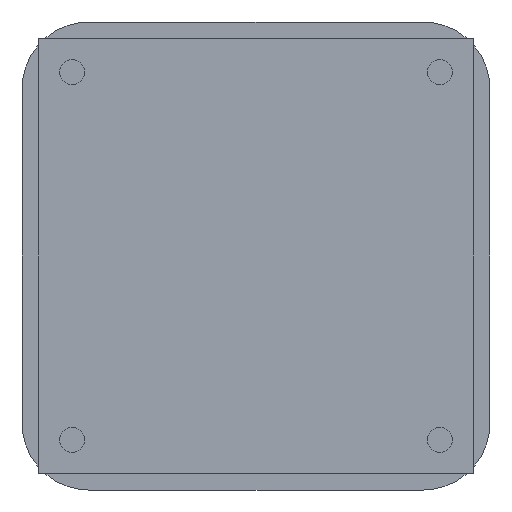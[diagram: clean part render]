
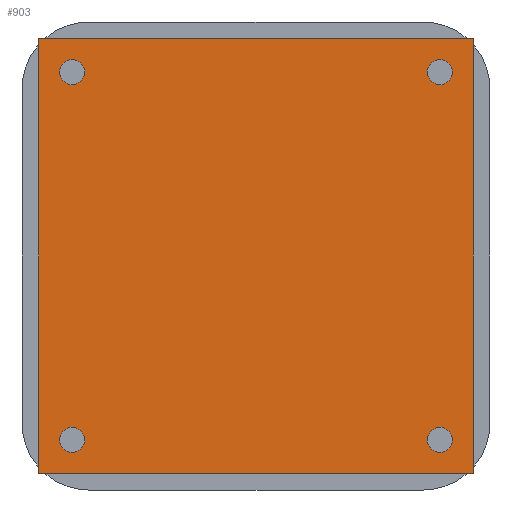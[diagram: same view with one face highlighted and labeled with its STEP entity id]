
A CAD part, front view. The second image highlights one B-rep face of the part: STEP entity #903.
In plain terms, the highlighted planar face has unit normal (0, -1, 0).
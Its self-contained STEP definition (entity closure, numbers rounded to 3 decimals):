
#127 = CIRCLE ( 'NONE', #7820, 1.5 ) ;
#291 = ORIENTED_EDGE ( 'NONE', *, *, #13187, .T. ) ;
#464 = VERTEX_POINT ( 'NONE', #14275 ) ;
#492 = CARTESIAN_POINT ( 'NONE',  ( -22., 0., 22. ) ) ;
#577 = EDGE_CURVE ( 'NONE', #1816, #8201, #12088, .T. ) ;
#850 = DIRECTION ( 'NONE',  ( 0., 1., 0. ) ) ;
#903 = ADVANCED_FACE ( 'NONE', ( #10055, #6867, #14233, #6470, #7069 ), #4294, .T. ) ;
#1151 = CIRCLE ( 'NONE', #3645, 1.5 ) ;
#1217 = DIRECTION ( 'NONE',  ( 0., 1., 0. ) ) ;
#1302 = CARTESIAN_POINT ( 'NONE',  ( 22., 0., -20.5 ) ) ;
#1510 = CARTESIAN_POINT ( 'NONE',  ( -26., 0., -26. ) ) ;
#1721 = ORIENTED_EDGE ( 'NONE', *, *, #13956, .T. ) ;
#1816 = VERTEX_POINT ( 'NONE', #9671 ) ;
#1841 = EDGE_LOOP ( 'NONE', ( #13561, #12926, #14253, #10465 ) ) ;
#1887 = DIRECTION ( 'NONE',  ( 0., 0., 1. ) ) ;
#2001 = CIRCLE ( 'NONE', #6228, 1.5 ) ;
#2280 = DIRECTION ( 'NONE',  ( 0., 1., 0. ) ) ;
#2454 = ORIENTED_EDGE ( 'NONE', *, *, #15687, .T. ) ;
#2500 = VERTEX_POINT ( 'NONE', #7095 ) ;
#2641 = CARTESIAN_POINT ( 'NONE',  ( -26., 0., 26. ) ) ;
#3068 = ORIENTED_EDGE ( 'NONE', *, *, #13795, .T. ) ;
#3186 = VERTEX_POINT ( 'NONE', #1510 ) ;
#3236 = EDGE_CURVE ( 'NONE', #2500, #14460, #9622, .T. ) ;
#3322 = CARTESIAN_POINT ( 'NONE',  ( 26., 0., 26. ) ) ;
#3491 = VERTEX_POINT ( 'NONE', #4795 ) ;
#3607 = CARTESIAN_POINT ( 'NONE',  ( 22., 0., -22. ) ) ;
#3645 = AXIS2_PLACEMENT_3D ( 'NONE', #3607, #2280, #5894 ) ;
#3761 = CARTESIAN_POINT ( 'NONE',  ( 22., 0., 22. ) ) ;
#3873 = DIRECTION ( 'NONE',  ( 0., 0., 1. ) ) ;
#3892 = CARTESIAN_POINT ( 'NONE',  ( -22., 0., 23.5 ) ) ;
#4028 = EDGE_CURVE ( 'NONE', #14460, #464, #12768, .T. ) ;
#4069 = ORIENTED_EDGE ( 'NONE', *, *, #5194, .T. ) ;
#4294 = PLANE ( 'NONE',  #6044 ) ;
#4456 = DIRECTION ( 'NONE',  ( 0., -1., 0. ) ) ;
#4564 = DIRECTION ( 'NONE',  ( 1., 0., 0. ) ) ;
#4795 = CARTESIAN_POINT ( 'NONE',  ( 22., 0., 20.5 ) ) ;
#5194 = EDGE_CURVE ( 'NONE', #9754, #14180, #9341, .T. ) ;
#5602 = CARTESIAN_POINT ( 'NONE',  ( -26., 0., 26. ) ) ;
#5689 = DIRECTION ( 'NONE',  ( 0., 1., 0. ) ) ;
#5894 = DIRECTION ( 'NONE',  ( 0., 0., 1. ) ) ;
#5988 = VECTOR ( 'NONE', #9056, 1000. ) ;
#6044 = AXIS2_PLACEMENT_3D ( 'NONE', #14631, #4456, #13201 ) ;
#6228 = AXIS2_PLACEMENT_3D ( 'NONE', #8472, #850, #14811 ) ;
#6470 = FACE_BOUND ( 'NONE', #13170, .T. ) ;
#6595 = CARTESIAN_POINT ( 'NONE',  ( -22., 0., -20.5 ) ) ;
#6867 = FACE_BOUND ( 'NONE', #9796, .T. ) ;
#6904 = DIRECTION ( 'NONE',  ( 0., 0., 1. ) ) ;
#7013 = EDGE_LOOP ( 'NONE', ( #2454, #4069 ) ) ;
#7069 = FACE_OUTER_BOUND ( 'NONE', #1841, .T. ) ;
#7095 = CARTESIAN_POINT ( 'NONE',  ( -26., 0., 26. ) ) ;
#7414 = CARTESIAN_POINT ( 'NONE',  ( 22., 0., -22. ) ) ;
#7455 = VECTOR ( 'NONE', #8147, 1000. ) ;
#7820 = AXIS2_PLACEMENT_3D ( 'NONE', #3761, #1217, #3873 ) ;
#7990 = EDGE_CURVE ( 'NONE', #3186, #2500, #10046, .T. ) ;
#8002 = CARTESIAN_POINT ( 'NONE',  ( -22., 0., -23.5 ) ) ;
#8147 = DIRECTION ( 'NONE',  ( 0., 0., 1. ) ) ;
#8201 = VERTEX_POINT ( 'NONE', #1302 ) ;
#8366 = DIRECTION ( 'NONE',  ( 0., 0., 1. ) ) ;
#8459 = AXIS2_PLACEMENT_3D ( 'NONE', #14372, #15652, #10439 ) ;
#8472 = CARTESIAN_POINT ( 'NONE',  ( -22., 0., 22. ) ) ;
#8589 = DIRECTION ( 'NONE',  ( 0., 0., 1. ) ) ;
#9056 = DIRECTION ( 'NONE',  ( -1., 0., 0. ) ) ;
#9147 = CIRCLE ( 'NONE', #10466, 1.5 ) ;
#9175 = VERTEX_POINT ( 'NONE', #6595 ) ;
#9341 = CIRCLE ( 'NONE', #12259, 1.5 ) ;
#9423 = VECTOR ( 'NONE', #4564, 1000. ) ;
#9622 = LINE ( 'NONE', #2641, #9423 ) ;
#9671 = CARTESIAN_POINT ( 'NONE',  ( 22., 0., -23.5 ) ) ;
#9754 = VERTEX_POINT ( 'NONE', #10931 ) ;
#9796 = EDGE_LOOP ( 'NONE', ( #16504, #13948 ) ) ;
#10046 = LINE ( 'NONE', #5602, #7455 ) ;
#10055 = FACE_BOUND ( 'NONE', #12732, .T. ) ;
#10439 = DIRECTION ( 'NONE',  ( 0., 0., 1. ) ) ;
#10465 = ORIENTED_EDGE ( 'NONE', *, *, #15141, .F. ) ;
#10466 = AXIS2_PLACEMENT_3D ( 'NONE', #14691, #5689, #6904 ) ;
#10685 = DIRECTION ( 'NONE',  ( 0., 1., 0. ) ) ;
#10931 = CARTESIAN_POINT ( 'NONE',  ( -22., 0., 20.5 ) ) ;
#11390 = EDGE_CURVE ( 'NONE', #3491, #13759, #9147, .T. ) ;
#11865 = CARTESIAN_POINT ( 'NONE',  ( -26., 0., -26. ) ) ;
#12088 = CIRCLE ( 'NONE', #14664, 1.5 ) ;
#12259 = AXIS2_PLACEMENT_3D ( 'NONE', #492, #10685, #1887 ) ;
#12559 = DIRECTION ( 'NONE',  ( 0., 0., -1. ) ) ;
#12584 = VECTOR ( 'NONE', #12559, 1000. ) ;
#12732 = EDGE_LOOP ( 'NONE', ( #291, #14711 ) ) ;
#12755 = CARTESIAN_POINT ( 'NONE',  ( 22., 0., 23.5 ) ) ;
#12768 = LINE ( 'NONE', #3322, #12584 ) ;
#12926 = ORIENTED_EDGE ( 'NONE', *, *, #3236, .F. ) ;
#13082 = CIRCLE ( 'NONE', #8459, 1.5 ) ;
#13170 = EDGE_LOOP ( 'NONE', ( #3068, #1721 ) ) ;
#13187 = EDGE_CURVE ( 'NONE', #8201, #1816, #1151, .T. ) ;
#13201 = DIRECTION ( 'NONE',  ( 0., 0., -1. ) ) ;
#13561 = ORIENTED_EDGE ( 'NONE', *, *, #4028, .F. ) ;
#13585 = CARTESIAN_POINT ( 'NONE',  ( 26., 0., 26. ) ) ;
#13759 = VERTEX_POINT ( 'NONE', #12755 ) ;
#13764 = DIRECTION ( 'NONE',  ( 0., 1., 0. ) ) ;
#13795 = EDGE_CURVE ( 'NONE', #9175, #15009, #13082, .T. ) ;
#13948 = ORIENTED_EDGE ( 'NONE', *, *, #11390, .T. ) ;
#13956 = EDGE_CURVE ( 'NONE', #15009, #9175, #14271, .T. ) ;
#14180 = VERTEX_POINT ( 'NONE', #3892 ) ;
#14233 = FACE_BOUND ( 'NONE', #7013, .T. ) ;
#14253 = ORIENTED_EDGE ( 'NONE', *, *, #7990, .F. ) ;
#14271 = CIRCLE ( 'NONE', #15041, 1.5 ) ;
#14275 = CARTESIAN_POINT ( 'NONE',  ( 26., 0., -26. ) ) ;
#14372 = CARTESIAN_POINT ( 'NONE',  ( -22., 0., -22. ) ) ;
#14427 = CARTESIAN_POINT ( 'NONE',  ( -22., 0., -22. ) ) ;
#14460 = VERTEX_POINT ( 'NONE', #13585 ) ;
#14631 = CARTESIAN_POINT ( 'NONE',  ( 0., 0., 0. ) ) ;
#14664 = AXIS2_PLACEMENT_3D ( 'NONE', #7414, #13764, #8589 ) ;
#14691 = CARTESIAN_POINT ( 'NONE',  ( 22., 0., 22. ) ) ;
#14697 = DIRECTION ( 'NONE',  ( 0., 1., 0. ) ) ;
#14711 = ORIENTED_EDGE ( 'NONE', *, *, #577, .T. ) ;
#14811 = DIRECTION ( 'NONE',  ( 0., 0., 1. ) ) ;
#14864 = EDGE_CURVE ( 'NONE', #13759, #3491, #127, .T. ) ;
#15009 = VERTEX_POINT ( 'NONE', #8002 ) ;
#15041 = AXIS2_PLACEMENT_3D ( 'NONE', #14427, #14697, #8366 ) ;
#15141 = EDGE_CURVE ( 'NONE', #464, #3186, #15332, .T. ) ;
#15332 = LINE ( 'NONE', #11865, #5988 ) ;
#15652 = DIRECTION ( 'NONE',  ( 0., 1., 0. ) ) ;
#15687 = EDGE_CURVE ( 'NONE', #14180, #9754, #2001, .T. ) ;
#16504 = ORIENTED_EDGE ( 'NONE', *, *, #14864, .T. ) ;
